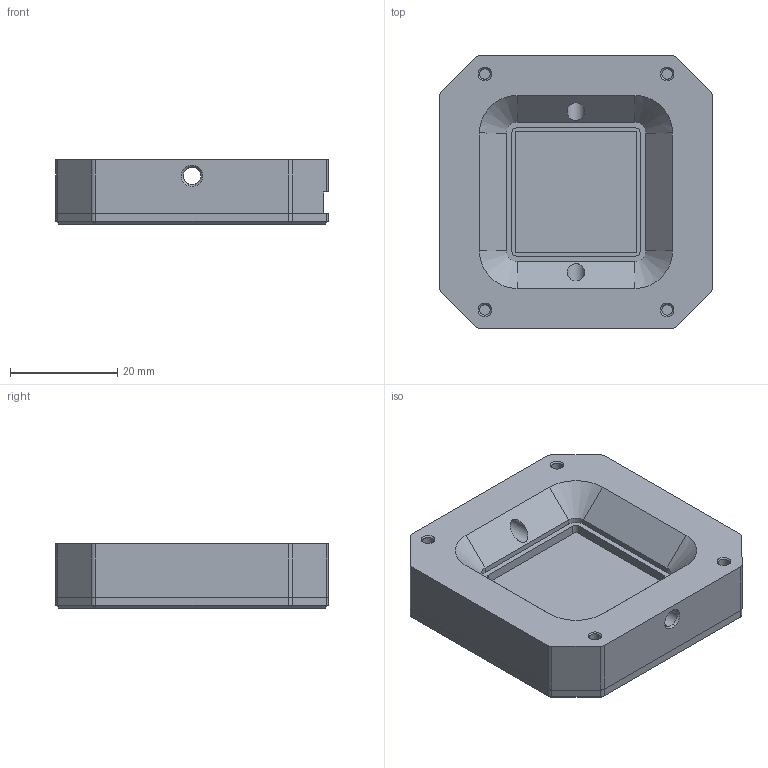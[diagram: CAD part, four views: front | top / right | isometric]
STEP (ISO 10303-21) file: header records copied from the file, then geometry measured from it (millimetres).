
FILE_DESCRIPTION (( 'STEP AP214' ), '1' );
FILE_NAME ('152-067-02_Rev-0-04_FMR-20-PG_ENV.STEP', '2022-12-19T16:03:48', ( '' ), ( '' ), 'SwSTEP 2.0', 'SolidWorks 2022', '' );
FILE_SCHEMA (( 'AUTOMOTIVE_DESIGN' ));
Length unit declared in the file: millimetre
Products named in the file (12): 152-266-00_Standard; 142-906-00; 152-067-02_Rev-0-04_FMR-20-PG_ENV; 132-735-13; 145-314-00_Rev-0-01_alt_default_01 - components only; 152-066-00; 152-429-XX_98-customer Layout without inside parts - PG; 152-267-00_DIN912 M2x4; 152-328-00; 152-068-00; 152-688-XX_FMR-20-PG-0.2x0.2D; 145-314-XX_98-customer Layout without inside parts
Assembly tree (20 placements, depth 4):
  152-067-02_Rev-0-04_FMR-20-PG_ENV
    152-066-00
    152-429-XX_98-customer Layout without inside parts - PG
      142-906-00
        132-735-13
      145-314-XX_98-customer Layout without inside parts
        145-314-00_Rev-0-01_alt_default_01 - components only
      152-688-XX_FMR-20-PG-0.2x0.2D
    152-068-00
    152-328-00  x4
    152-267-00_DIN912 M2x4  x4
    152-266-00_Standard  x4
Bounding box: 50.8 x 50.8 x 12 mm (x, y, z)
Volume: 19425.9 mm3; surface area: 16182.8 mm2
Topology: 27 solids, 27 shells, 1196 faces, 3120 edges, 1983 vertices
Faces by surface type: plane 821, cylinder 222, cone 62, bspline 55, sphere 32, torus 4
Full cylindrical faces by diameter (mm): 0.4 x2, 1.6 x4, 1.998 x4, 2 x8, 2.05 x4, 2.2 x8, 2.5 x4, 2.7 x4, 3.3 x2, 4 x4, 5 x8
Entity records: 35837 total; most frequent: CARTESIAN_POINT 6752, ORIENTED_EDGE 5516, DIRECTION 5065, EDGE_CURVE 2758, VECTOR 2209, LINE 2209, VERTEX_POINT 1809, AXIS2_PLACEMENT_3D 1428
